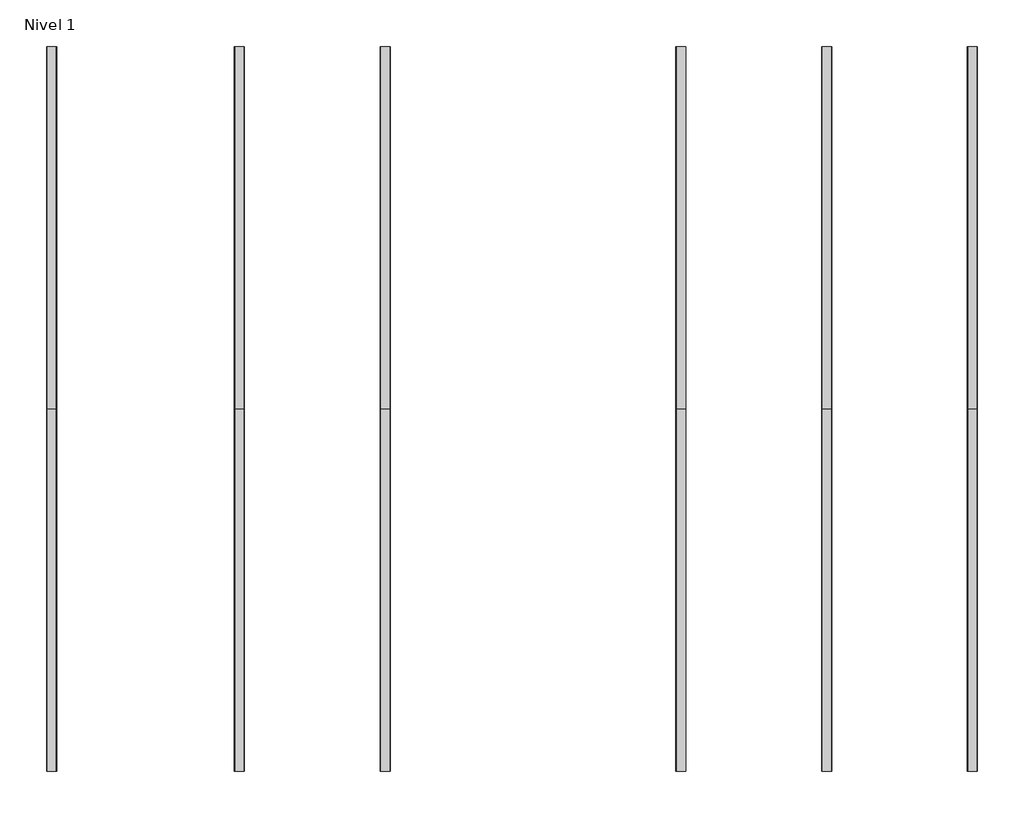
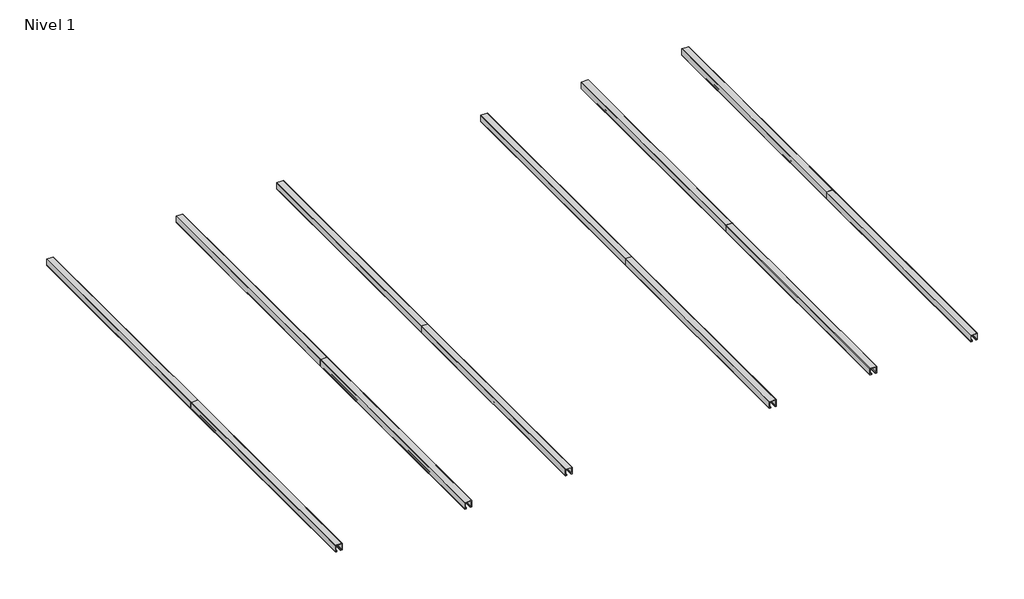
# One storey: 3 proxies.
"""IFC4 building model written with IfcOpenShell, lengths in millimetres."""

from ifc_helpers import new_model, si_unit, origin, place, context, project, spatial, transform, mapped, element, save
from components import generic_models_71086687, generic_models_cc1fa2ff, generic_models_46ce0fe3

model = new_model("IFC4")

# Units and contexts
model_context = context("Model", 3, world=origin())
ifc_project = project(units=[si_unit("LENGTHUNIT", "METRE", prefix="MILLI")], contexts=[model_context])

# Site, building, storey
site = spatial("IfcSite", under=ifc_project)
building = spatial("IfcBuilding", under=site)
storey = spatial("IfcBuildingStorey", under=building, Name="Nivel 1", Elevation=0.0)

# Proxies
placement = place(None, origin())
generic_models_shape = generic_models_71086687(model_context)
element("IfcBuildingElementProxy", 1, Name="modelo_cirrus 33.3dm", ObjectType="modelo_cirrus 33.3dm", at=placement, inside=storey, context=model_context, shape_type="MappedRepresentation", body=[
    mapped(generic_models_shape, transform((9500.0, 0.0, 0.0), x_axis=(1.0, 0.0, 0.0), y_axis=(0.0, 1.0, 0.0), z_axis=(0.0, 0.0, 1.0))),
])
generic_models_2_shape = generic_models_cc1fa2ff(model_context)
element("IfcBuildingElementProxy", 2, Name="modelo_cirrus 32.3dm", ObjectType="modelo_cirrus 32.3dm", at=placement, inside=storey, context=model_context, shape_type="MappedRepresentation", body=[
    mapped(generic_models_2_shape, transform((9500.0, 0.0, 0.0), x_axis=(1.0, 0.0, 0.0), y_axis=(0.0, 1.0, 0.0), z_axis=(0.0, 0.0, 1.0))),
])
generic_models_3_shape = generic_models_46ce0fe3(model_context)
element("IfcBuildingElementProxy", 3, Name="modelo_cirrus 32.3dm", ObjectType="modelo_cirrus 32.3dm", at=placement, inside=storey, context=model_context, shape_type="MappedRepresentation", body=[
    mapped(generic_models_3_shape, transform((9500.0, 0.0, 0.0), x_axis=(1.0, 0.0, 0.0), y_axis=(0.0, 1.0, 0.0), z_axis=(0.0, 0.0, 1.0))),
])

save(model, "model.ifc")
